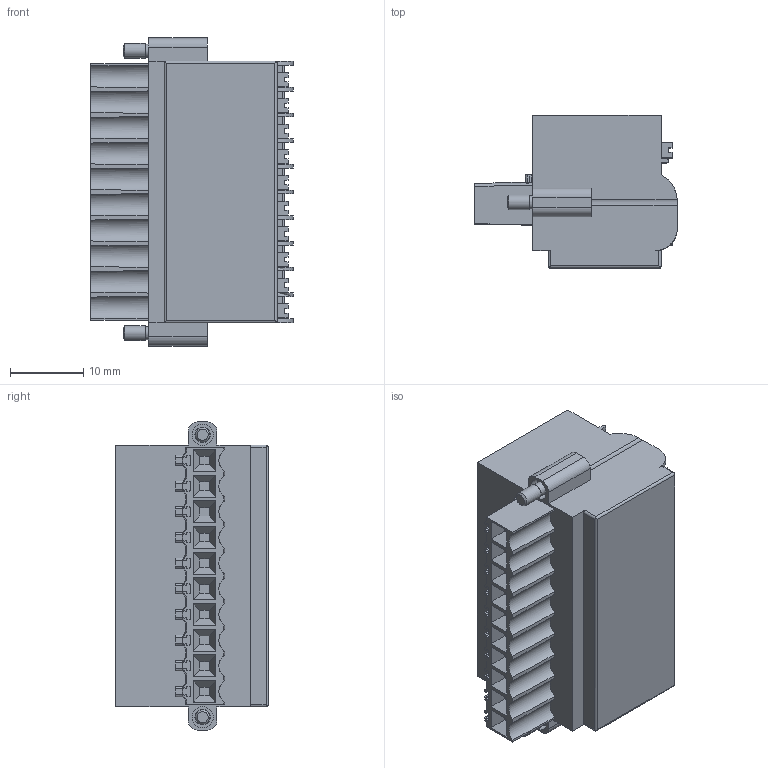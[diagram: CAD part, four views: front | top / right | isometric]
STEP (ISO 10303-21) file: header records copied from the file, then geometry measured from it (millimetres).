
FILE_DESCRIPTION( ( 'STEP AP203' ), '1' );
FILE_NAME( 'p:/temp/worker_22/temp/app_62_0201908101138554635741510e898ce_000000_00_00_000000/format_0/BL-I_O 3.50_30F PNP LED SN LTGY BX 1965970000.stp', '2019-08-10T09:38:58', ( '' ), ( '' ), ' ', 'PARTsolutions', ' ' );
FILE_SCHEMA( ( 'CONFIG_CONTROL_DESIGN' ) );
Length unit declared in the file: millimetre
Products named in the file (1): _BL-I/O 3.50/30F PNP LED SN LTGY BX 1965970000
Bounding box: 27.6 x 20.8 x 42 mm (x, y, z)
Volume: 14082.2 mm3; surface area: 6608.5 mm2
Topology: 1 solids, 3 shells, 1380 faces, 3882 edges, 2587 vertices
Faces by surface type: plane 1181, cylinder 179, cone 14, torus 6
Full cylindrical faces by diameter (mm): 1.8 x4, 2 x2, 2.1 x2, 2.8 x2, 2.9 x4
Entity records: 44369 total; most frequent: CARTESIAN_POINT 8622, ORIENTED_EDGE 7710, DIRECTION 6883, EDGE_CURVE 3855, LINE 3289, VECTOR 3289, VERTEX_POINT 2580, AXIS2_PLACEMENT_3D 1797
